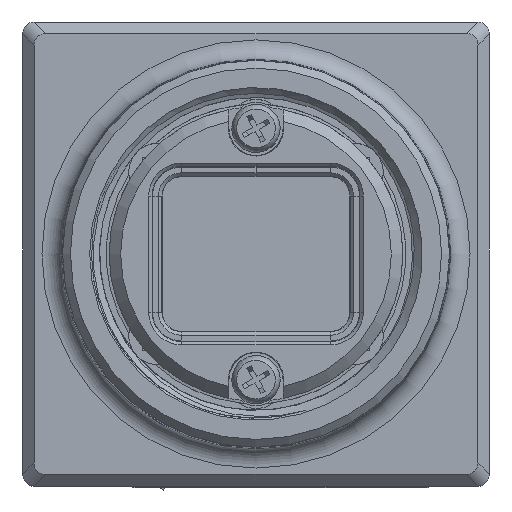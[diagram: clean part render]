
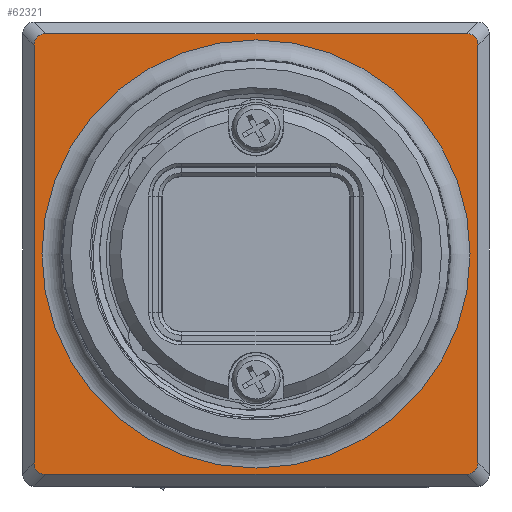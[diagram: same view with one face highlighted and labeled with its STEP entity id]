
A CAD part, top view. The second image highlights one B-rep face of the part: STEP entity #62321.
In plain terms, the highlighted planar face has unit normal (0, 0, 1).
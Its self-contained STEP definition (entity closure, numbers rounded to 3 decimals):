
#2031 = VERTEX_POINT ( 'NONE', #70637 ) ;
#3850 = VECTOR ( 'NONE', #59086, 1000. ) ;
#6382 = CARTESIAN_POINT ( 'NONE',  ( 10.874, -11.4, 8. ) ) ;
#6663 = ORIENTED_EDGE ( 'NONE', *, *, #90307, .T. ) ;
#7575 = CARTESIAN_POINT ( 'NONE',  ( -11.475, 0., 8. ) ) ;
#16582 = ORIENTED_EDGE ( 'NONE', *, *, #73830, .T. ) ;
#17063 = EDGE_CURVE ( 'NONE', #86084, #132004, #116725, .T. ) ;
#17765 = VERTEX_POINT ( 'NONE', #6382 ) ;
#20838 = CARTESIAN_POINT ( 'NONE',  ( -11.255, -11.4, 8. ) ) ;
#21363 = CARTESIAN_POINT ( 'NONE',  ( 11.475, 0., 8. ) ) ;
#21704 = CARTESIAN_POINT ( 'NONE',  ( -10.874, -11.4, 8. ) ) ;
#22294 = LINE ( 'NONE', #107060, #48469 ) ;
#23061 = ORIENTED_EDGE ( 'NONE', *, *, #126144, .T. ) ;
#27117 = PLANE ( 'NONE',  #119097 ) ;
#27153 = EDGE_CURVE ( 'NONE', #17765, #91232, #107434, .T. ) ;
#32566 = EDGE_CURVE ( 'NONE', #2031, #62287, #101565, .T. ) ;
#33001 = CARTESIAN_POINT ( 'NONE',  ( 11.475, 10.794, 8. ) ) ;
#34434 = EDGE_LOOP ( 'NONE', ( #16582, #70911, #6663, #91163, #23061, #83752, #53827, #72158 ) ) ;
#37049 = CARTESIAN_POINT ( 'NONE',  ( 11.475, -11.178, 8. ) ) ;
#37402 = CARTESIAN_POINT ( 'NONE',  ( -11.475, 11.178, 8. ) ) ;
#37646 = DIRECTION ( 'NONE',  ( -1., 0., 0. ) ) ;
#40483 = CARTESIAN_POINT ( 'NONE',  ( 0., 0., 8. ) ) ;
#41838 = CARTESIAN_POINT ( 'NONE',  ( -11.073, 0., 8. ) ) ;
#43176 = CARTESIAN_POINT ( 'NONE',  ( -11.475, -11.178, 8. ) ) ;
#43635 = CARTESIAN_POINT ( 'NONE',  ( 0., -11.4, 8. ) ) ;
#43873 = ORIENTED_EDGE ( 'NONE', *, *, #132859, .T. ) ;
#44472 = CARTESIAN_POINT ( 'NONE',  ( 11.255, 11.4, 8. ) ) ;
#47836 = CARTESIAN_POINT ( 'NONE',  ( -11.475, 10.794, 8. ) ) ;
#47909 = EDGE_CURVE ( 'NONE', #62287, #102612, #67399, .T. ) ;
#48469 = VECTOR ( 'NONE', #76158, 1000. ) ;
#49690 = LINE ( 'NONE', #43635, #54512 ) ;
#50204 = FACE_OUTER_BOUND ( 'NONE', #34434, .T. ) ;
#53642 = CARTESIAN_POINT ( 'NONE',  ( -10.874, 11.4, 8. ) ) ;
#53827 = ORIENTED_EDGE ( 'NONE', *, *, #32566, .T. ) ;
#54062 = DIRECTION ( 'NONE',  ( 1., 0., 0. ) ) ;
#54512 = VECTOR ( 'NONE', #54062, 1000. ) ;
#59086 = DIRECTION ( 'NONE',  ( 0., -1., 0. ) ) ;
#62262 = CARTESIAN_POINT ( 'NONE',  ( -11.475, -10.794, 8. ) ) ;
#62287 = VERTEX_POINT ( 'NONE', #66268 ) ;
#62321 = ADVANCED_FACE ( 'NONE', ( #50204, #63227 ), #27117, .F. ) ;
#62346 =( BOUNDED_CURVE ( )  B_SPLINE_CURVE ( 3, ( #79649, #121922, #37402, #47836 ),
 .UNSPECIFIED., .F., .F. ) 
 B_SPLINE_CURVE_WITH_KNOTS ( ( 4, 4 ),
 ( 2.623, 3.675 ),
 .UNSPECIFIED. ) 
 CURVE ( )  GEOMETRIC_REPRESENTATION_ITEM ( )  RATIONAL_B_SPLINE_CURVE ( ( 1., 0.91, 0.91, 1. ) ) 
 REPRESENTATION_ITEM ( '' )  );
#63227 = FACE_BOUND ( 'NONE', #107064, .T. ) ;
#66268 = CARTESIAN_POINT ( 'NONE',  ( -11.475, -10.794, 8. ) ) ;
#67399 =( BOUNDED_CURVE ( )  B_SPLINE_CURVE ( 3, ( #62262, #43176, #20838, #21704 ),
 .UNSPECIFIED., .F., .F. ) 
 B_SPLINE_CURVE_WITH_KNOTS ( ( 4, 4 ),
 ( 2.608, 3.66 ),
 .UNSPECIFIED. ) 
 CURVE ( )  GEOMETRIC_REPRESENTATION_ITEM ( )  RATIONAL_B_SPLINE_CURVE ( ( 1., 0.91, 0.91, 1. ) ) 
 REPRESENTATION_ITEM ( '' )  );
#68364 = CARTESIAN_POINT ( 'NONE',  ( 10.874, -11.4, 8. ) ) ;
#69741 = CARTESIAN_POINT ( 'NONE',  ( 11.475, -10.794, 8. ) ) ;
#70637 = CARTESIAN_POINT ( 'NONE',  ( -11.475, 10.794, 8. ) ) ;
#70911 = ORIENTED_EDGE ( 'NONE', *, *, #27153, .T. ) ;
#71290 = CARTESIAN_POINT ( 'NONE',  ( 11.475, -10.794, 8. ) ) ;
#72158 = ORIENTED_EDGE ( 'NONE', *, *, #47909, .T. ) ;
#72536 = CIRCLE ( 'NONE', #127952, 11.073 ) ;
#73830 = EDGE_CURVE ( 'NONE', #102612, #17765, #49690, .T. ) ;
#76158 = DIRECTION ( 'NONE',  ( -1., 0., 0. ) ) ;
#78986 = CARTESIAN_POINT ( 'NONE',  ( 0., 0., 8. ) ) ;
#79443 = DIRECTION ( 'NONE',  ( 0., 0., -1. ) ) ;
#79649 = CARTESIAN_POINT ( 'NONE',  ( -10.874, 11.4, 8. ) ) ;
#80252 = EDGE_CURVE ( 'NONE', #99549, #2031, #62346, .T. ) ;
#83752 = ORIENTED_EDGE ( 'NONE', *, *, #80252, .T. ) ;
#86084 = VERTEX_POINT ( 'NONE', #33001 ) ;
#86223 = CARTESIAN_POINT ( 'NONE',  ( 10.874, 11.4, 8. ) ) ;
#90307 = EDGE_CURVE ( 'NONE', #91232, #86084, #108409, .T. ) ;
#91163 = ORIENTED_EDGE ( 'NONE', *, *, #17063, .T. ) ;
#91232 = VERTEX_POINT ( 'NONE', #71290 ) ;
#95344 = CARTESIAN_POINT ( 'NONE',  ( 11.475, 11.178, 8. ) ) ;
#99295 = CARTESIAN_POINT ( 'NONE',  ( 11.255, -11.4, 8. ) ) ;
#99549 = VERTEX_POINT ( 'NONE', #53642 ) ;
#101565 = LINE ( 'NONE', #7575, #3850 ) ;
#102612 = VERTEX_POINT ( 'NONE', #127976 ) ;
#107060 = CARTESIAN_POINT ( 'NONE',  ( 0., 11.4, 8. ) ) ;
#107064 = EDGE_LOOP ( 'NONE', ( #43873 ) ) ;
#107428 = CARTESIAN_POINT ( 'NONE',  ( 10.874, 11.4, 8. ) ) ;
#107434 =( BOUNDED_CURVE ( )  B_SPLINE_CURVE ( 3, ( #68364, #99295, #37049, #69741 ),
 .UNSPECIFIED., .F., .F. ) 
 B_SPLINE_CURVE_WITH_KNOTS ( ( 4, 4 ),
 ( 5.765, 6.817 ),
 .UNSPECIFIED. ) 
 CURVE ( )  GEOMETRIC_REPRESENTATION_ITEM ( )  RATIONAL_B_SPLINE_CURVE ( ( 1., 0.91, 0.91, 1. ) ) 
 REPRESENTATION_ITEM ( '' )  );
#108409 = LINE ( 'NONE', #21363, #129557 ) ;
#114134 = DIRECTION ( 'NONE',  ( 0., 0., -1. ) ) ;
#114225 = DIRECTION ( 'NONE',  ( 0., 1., 0. ) ) ;
#116725 =( BOUNDED_CURVE ( )  B_SPLINE_CURVE ( 3, ( #126731, #95344, #44472, #86223 ),
 .UNSPECIFIED., .F., .F. ) 
 B_SPLINE_CURVE_WITH_KNOTS ( ( 4, 4 ),
 ( 5.749, 6.802 ),
 .UNSPECIFIED. ) 
 CURVE ( )  GEOMETRIC_REPRESENTATION_ITEM ( )  RATIONAL_B_SPLINE_CURVE ( ( 1., 0.91, 0.91, 1. ) ) 
 REPRESENTATION_ITEM ( '' )  );
#118877 = VERTEX_POINT ( 'NONE', #41838 ) ;
#119097 = AXIS2_PLACEMENT_3D ( 'NONE', #78986, #79443, #37646 ) ;
#121922 = CARTESIAN_POINT ( 'NONE',  ( -11.255, 11.4, 8. ) ) ;
#124075 = DIRECTION ( 'NONE',  ( -1., 0., 0. ) ) ;
#126144 = EDGE_CURVE ( 'NONE', #132004, #99549, #22294, .T. ) ;
#126731 = CARTESIAN_POINT ( 'NONE',  ( 11.475, 10.794, 8. ) ) ;
#127952 = AXIS2_PLACEMENT_3D ( 'NONE', #40483, #114134, #124075 ) ;
#127976 = CARTESIAN_POINT ( 'NONE',  ( -10.874, -11.4, 8. ) ) ;
#129557 = VECTOR ( 'NONE', #114225, 1000. ) ;
#132004 = VERTEX_POINT ( 'NONE', #107428 ) ;
#132859 = EDGE_CURVE ( 'NONE', #118877, #118877, #72536, .T. ) ;
